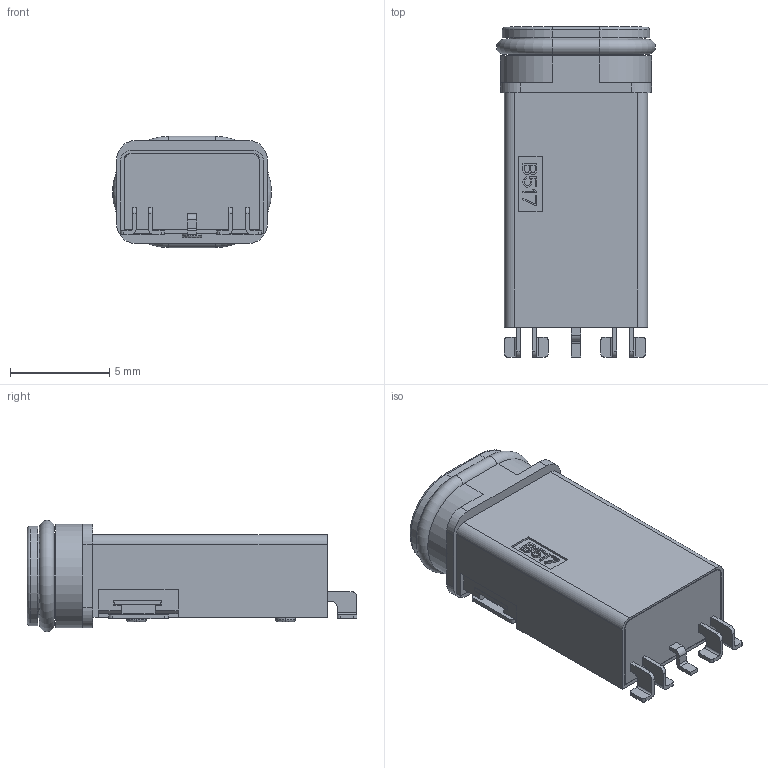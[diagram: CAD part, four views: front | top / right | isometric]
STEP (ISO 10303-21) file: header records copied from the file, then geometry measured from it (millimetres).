
FILE_DESCRIPTION((''),'2;1');
FILE_NAME('DM35A006-07SP','2026-06-28T',('WYH'),(''),'PRO/ENGINEER BY PARAMETRIC TECHNOLOGY CORPORATION, 2013040','PRO/ENGINEER BY PARAMETRIC TECHNOLOGY CORPORATION, 2013040','');
FILE_SCHEMA(('CONFIG_CONTROL_DESIGN'));
Length unit declared in the file: millimetre
Products named in the file (1): DM35A006-07SP
Bounding box: 8 x 16.6 x 5.6 mm (x, y, z)
Volume: 355.1 mm3; surface area: 722.5 mm2
Topology: 1 solids, 1 shells, 378 faces, 1037 edges, 684 vertices
Faces by surface type: plane 287, cylinder 83, torus 8
Entity records: 11953 total; most frequent: CARTESIAN_POINT 2123, ORIENTED_EDGE 2074, DIRECTION 1971, EDGE_CURVE 1037, VECTOR 843, LINE 843, VERTEX_POINT 684, AXIS2_PLACEMENT_3D 564
